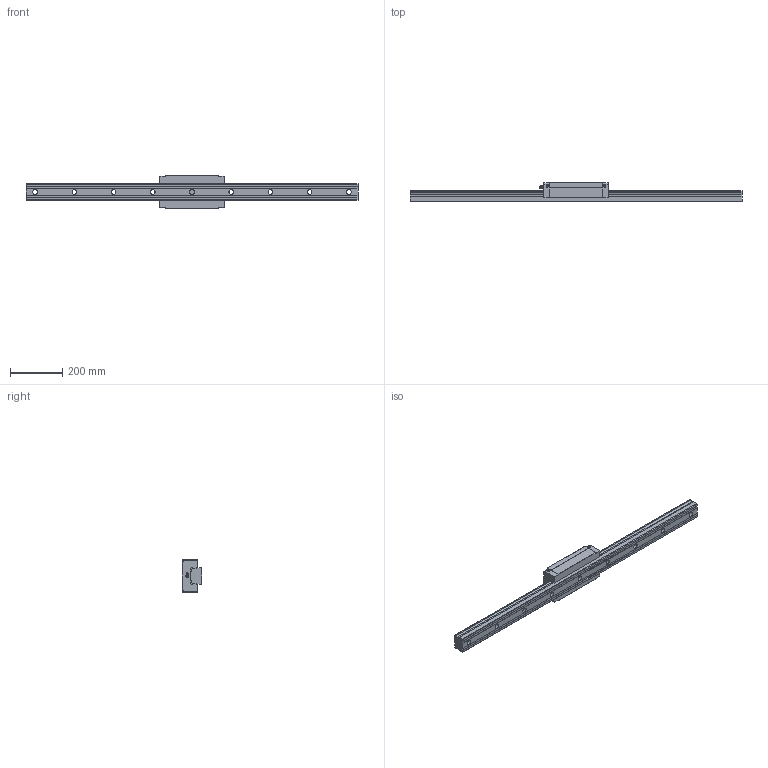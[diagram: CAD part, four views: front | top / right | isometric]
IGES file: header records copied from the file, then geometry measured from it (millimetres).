
Start section: Data from Parasolid IGES Translator 26.0.171, Copyright(c) 2006 Siemens PLM Software. All Rights Reserved.
Global section: file name: SVR65LR1SS-1270L_G35_0_B-PT18_512_0_0_0_1.igs; native system: By Siemens PLM Incorporated; preprocessor: XPlus GENERIC/IGES 26.0.171; author: Noname; organization: Noname; date: 20240517.070744; units: millimetre
Bounding box: 1270 x 75 x 126 mm (x, y, z)
Surface area: 433279.5 mm2 (no closed solid volume)
Topology: 0 solids, 0 shells, 195 faces, 1055 edges, 1003 vertices
Faces by surface type: extrusion 102, revolution 93
